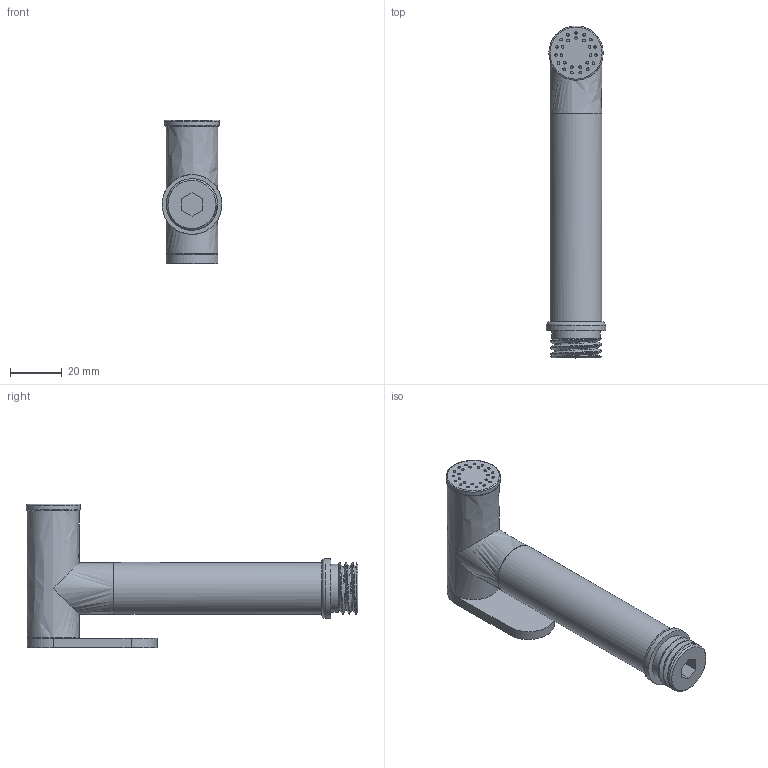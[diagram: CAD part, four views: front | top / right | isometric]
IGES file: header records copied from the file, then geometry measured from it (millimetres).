
Global section: file name: e639a663-152c-4d3c-8acd-174a46131c99; native system: unknown; preprocessor: unknown; author: unknown; organization: unknown; date: 20191209.101205; units: millimetre
Bounding box: 22.99 x 127.71 x 55.2 mm (x, y, z)
Volume: 51356.3 mm3; surface area: 16898.1 mm2
Topology: 5 solids, 5 shells, 125 faces, 256 edges, 169 vertices
Faces by surface type: bspline 125
